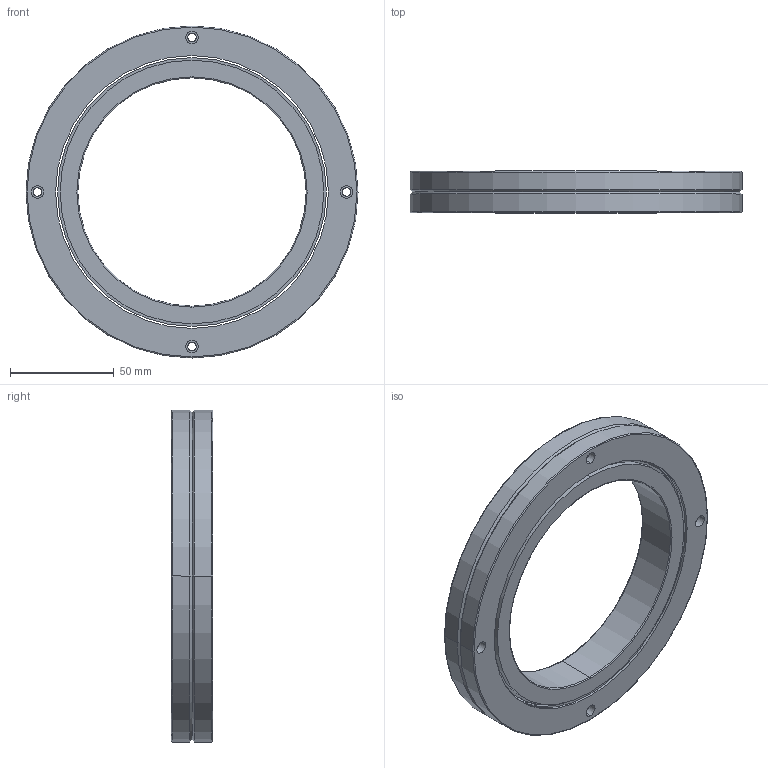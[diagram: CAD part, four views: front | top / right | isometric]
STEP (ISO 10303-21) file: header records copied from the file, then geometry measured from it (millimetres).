
FILE_DESCRIPTION((''),'2;1');
FILE_NAME('RB11020','2015-01-09T',('Administrator'),(''),'PRO/ENGINEER BY PARAMETRIC TECHNOLOGY CORPORATION, 2010180','PRO/ENGINEER BY PARAMETRIC TECHNOLOGY CORPORATION, 2010180','');
FILE_SCHEMA(('AUTOMOTIVE_DESIGN_CC2 { 1 2 10303 214 -1 1 5 2 }'));
Length unit declared in the file: millimetre
Products named in the file (1): RB11020
Bounding box: 160 x 20 x 160 mm (x, y, z)
Volume: 173726.4 mm3; surface area: 62771.6 mm2
Topology: 2 solids, 2 shells, 88 faces, 184 edges, 114 vertices
Faces by surface type: cylinder 50, plane 18, cone 12, torus 8
Entity records: 2497 total; most frequent: DIRECTION 482, CARTESIAN_POINT 386, ORIENTED_EDGE 368, AXIS2_PLACEMENT_3D 210, EDGE_CURVE 184, CIRCLE 122, VERTEX_POINT 114, EDGE_LOOP 114
